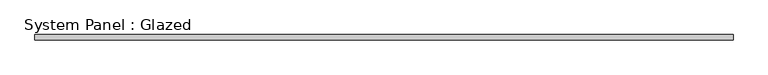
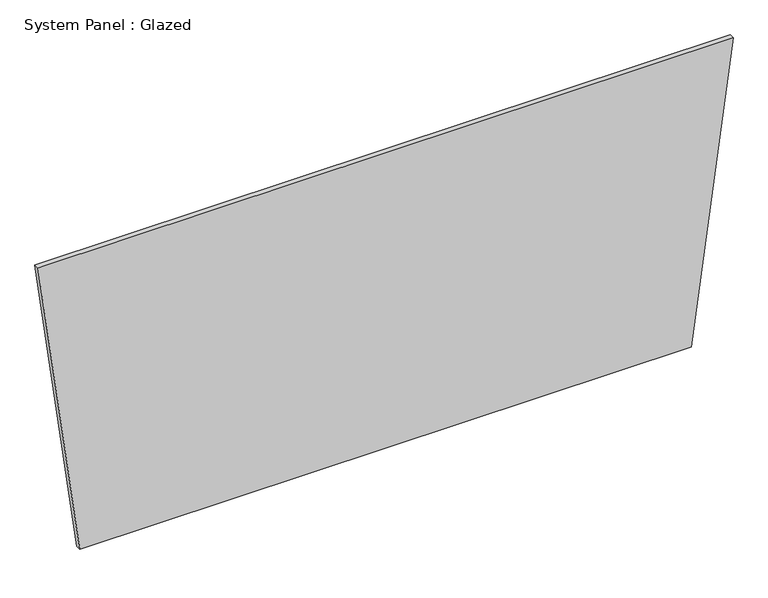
"""IFC4 building model written with IfcOpenShell, lengths in millimetres: plate geometry, System Panel : Glazed."""

import ifcopenshell
import ifcopenshell.guid

model = None  # the IFC model being written
_history = None  # IfcOwnerHistory: only IFC2X3 demands one
_inside = {}  # id of a spatial element -> (the spatial element, [elements in it])
_under = {}  # id of a project, library or spatial element -> (it, [spatial elements below it])
_declared = {}  # id of a project -> (the project, [libraries it declares])
_typed = {}  # id of a type object -> (the type object, [elements of that type])
_made_of = {}  # id of a material, layer set ... -> (it, [elements and type objects made of it])


def new_model(schema):
    """Start an empty IFC model of exactly this schema.

    Asked for "IFC4X3", IfcOpenShell would pick the latest addendum, in which some entities
    have other attributes; the version numbers below select the first issue.
    IFC2X3 requires an IfcOwnerHistory on every rooted entity: one is made here for all.
    """
    global model, _history
    if schema == "IFC4X3":
        model = ifcopenshell.file(schema_version=(4, 3, 0, 0))
    else:
        model = ifcopenshell.file(schema=schema)
    _inside.clear()
    _under.clear()
    _declared.clear()
    _typed.clear()
    _made_of.clear()
    _history = None
    if model.schema == "IFC2X3":
        org = make("IfcOrganization", Name="unknown")
        user = make(
            "IfcPersonAndOrganization",
            ThePerson=make("IfcPerson", FamilyName="unknown"),
            TheOrganization=org,
        )
        app = make(
            "IfcApplication",
            ApplicationDeveloper=org,
            Version="unknown",
            ApplicationFullName="unknown",
            ApplicationIdentifier="unknown",
        )
        _history = make(
            "IfcOwnerHistory",
            OwningUser=user,
            OwningApplication=app,
            ChangeAction="ADDED",
            CreationDate=0,
        )
    return model


def make(cls, **values):
    """One entity of the class cls with the attributes given. An attribute that is None is left unset."""
    return model.create_entity(
        cls, **{name: value for name, value in values.items() if value is not None}
    )


def rooted(cls, **values):
    """An entity with a GlobalId (a new one), such as an element, a storey or a relation."""
    return make(cls, GlobalId=ifcopenshell.guid.new(), OwnerHistory=_history, **values)


def si_unit(unit_type, name, prefix=None):
    """IfcSIUnit, for example si_unit("LENGTHUNIT", "METRE", prefix="MILLI")."""
    return make("IfcSIUnit", UnitType=unit_type, Prefix=prefix, Name=name)


def assignment(units):
    """IfcUnitAssignment: the units of a project."""
    return None if units is None else make("IfcUnitAssignment", Units=units)


def point(xyz):
    """IfcCartesianPoint."""
    return None if xyz is None else make("IfcCartesianPoint", Coordinates=xyz)


def direction(xyz):
    """IfcDirection."""
    return None if xyz is None else make("IfcDirection", DirectionRatios=xyz)


def frame(location, z_axis=None, x_axis=None):
    """IfcAxis2Placement3D, a coordinate frame: its origin and axes. An axis left out is left unset."""
    return make(
        "IfcAxis2Placement3D",
        Location=point(location),
        Axis=direction(z_axis),
        RefDirection=direction(x_axis),
    )


def origin():
    """The frame at (0, 0, 0) with its axes left unset."""
    return frame((0.0, 0.0, 0.0))


def place(relative_to, where):
    """IfcLocalPlacement: puts the frame where relative to a parent placement (None: the world)."""
    return make(
        "IfcLocalPlacement", PlacementRelTo=relative_to, RelativePlacement=where
    )


def context(
    kind, dimensions, precision=None, world=None, true_north=None, identifier=None
):
    """IfcGeometricRepresentationContext, for example the 3D "Model" context."""
    return make(
        "IfcGeometricRepresentationContext",
        ContextIdentifier=identifier,
        ContextType=kind,
        CoordinateSpaceDimension=dimensions,
        Precision=precision,
        WorldCoordinateSystem=world,
        TrueNorth=true_north,
    )


def project(units=None, contexts=None):
    """IfcProject with its units and contexts."""
    return rooted(
        "IfcProject",
        Name="project",
        RepresentationContexts=contexts,
        UnitsInContext=assignment(units),
    )


def spatial(cls, under=None, at=None, **own):
    """A site, building, storey or space (cls), placed at a placement, below another one or the project."""
    s = rooted(cls, ObjectPlacement=at, **own)
    if under is not None:
        _under.setdefault(under.id(), (under, []))[1].append(s)
    return s


def polyline(points):
    """IfcPolyline through the points."""
    return make("IfcPolyline", Points=[point(p) for p in points])


def outline(outer, holes=None, kind="AREA"):
    """IfcArbitraryClosedProfileDef: a profile drawn as a closed curve; with holes, ...WithVoids."""
    if holes is None:
        return make("IfcArbitraryClosedProfileDef", ProfileType=kind, OuterCurve=outer)
    return make(
        "IfcArbitraryProfileDefWithVoids",
        ProfileType=kind,
        OuterCurve=outer,
        InnerCurves=holes,
    )


def extrude(swept, where, along, depth):
    """IfcExtrudedAreaSolid: the profile swept, set in the frame where, extruded along a direction by depth."""
    return make(
        "IfcExtrudedAreaSolid",
        SweptArea=swept,
        Position=where,
        ExtrudedDirection=direction(along),
        Depth=depth,
    )


def shape(context_of_items, identifier, shape_type, items):
    """IfcShapeRepresentation: the items that make up one representation, for example the "Body"."""
    return make(
        "IfcShapeRepresentation",
        ContextOfItems=context_of_items,
        RepresentationIdentifier=identifier,
        RepresentationType=shape_type,
        Items=items,
    )


def source(mapping_origin, context_of_items, identifier, shape_type, items):
    """IfcRepresentationMap: a shape defined once, which mapped items show again and again."""
    return make(
        "IfcRepresentationMap",
        MappingOrigin=mapping_origin,
        MappedRepresentation=shape(context_of_items, identifier, shape_type, items),
    )


def transform(
    local_origin,
    x_axis=None,
    y_axis=None,
    z_axis=None,
    scale=None,
    scale2=None,
    scale3=None,
    uniform=True,
):
    """IfcCartesianTransformationOperator3D, or its non-uniform kind. x_axis, y_axis, z_axis: its Axis1, 2, 3."""
    if uniform:
        return make(
            "IfcCartesianTransformationOperator3D",
            Axis1=direction(x_axis),
            Axis2=direction(y_axis),
            LocalOrigin=point(local_origin),
            Scale=scale,
            Axis3=direction(z_axis),
        )
    return make(
        "IfcCartesianTransformationOperator3DnonUniform",
        Axis1=direction(x_axis),
        Axis2=direction(y_axis),
        LocalOrigin=point(local_origin),
        Scale=scale,
        Axis3=direction(z_axis),
        Scale2=scale2,
        Scale3=scale3,
    )


def mapped(mapping_source, mapping_target):
    """IfcMappedItem: shows the shape of a source again, moved by a transform."""
    return make(
        "IfcMappedItem", MappingSource=mapping_source, MappingTarget=mapping_target
    )


def made_of(thing, what):
    """Note that an element or type object is made of a material, layer set ...; save() writes the relation."""
    if what is not None:
        _made_of.setdefault(what.id(), (what, []))[1].append(thing)
    return thing


def element(
    cls,
    number,
    at=None,
    inside=None,
    cuts=None,
    type_object=None,
    material=None,
    context=None,
    identifier="Body",
    shape_type=None,
    held_by="IfcProductDefinitionShape",
    body=None,
    shapes=None,
    **own,
):
    """One element of the class cls, such as IfcWall. Its Tag is "e" and its number.

    at: its placement. inside: the storey or other place that contains it. cuts: it is an
    opening in that element (IfcRelVoidsElement). A single representation is given by context,
    identifier, shape_type and body (its items); several are given by shapes. held_by: the class
    of the entity that holds the representations. save() writes the other relations.
    """
    e = rooted(cls, Tag="e%d" % number, ObjectPlacement=at, **own)
    if body is not None:
        shapes = [shape(context, identifier, shape_type, body)]
    if shapes is not None:
        e.Representation = make(held_by, Representations=shapes)
    if inside is not None:
        _inside.setdefault(inside.id(), (inside, []))[1].append(e)
    if cuts is not None:
        rooted(
            "IfcRelVoidsElement", RelatingBuildingElement=cuts, RelatedOpeningElement=e
        )
    if type_object is not None:
        _typed.setdefault(type_object.id(), (type_object, []))[1].append(e)
    return made_of(e, material)


def aggregate(whole, parts):
    """IfcRelAggregates: a whole, such as a stair, and the parts it consists of."""
    return rooted("IfcRelAggregates", RelatingObject=whole, RelatedObjects=parts)


def save(model, path):
    """Write the relations noted so far, then the file.

    IfcRelAggregates (storeys below a building ...), IfcRelContainedInSpatialStructure (elements
    in a storey), IfcRelDefinesByType, IfcRelAssociatesMaterial and IfcRelDeclares: one each for
    every whole, place, type object, material and project.
    """
    for whole, parts in _under.values():
        aggregate(whole, parts)
    for where, things in _inside.values():
        rooted(
            "IfcRelContainedInSpatialStructure",
            RelatedElements=things,
            RelatingStructure=where,
        )
    for kind, things in _typed.values():
        rooted("IfcRelDefinesByType", RelatedObjects=things, RelatingType=kind)
    for what, things in _made_of.values():
        rooted("IfcRelAssociatesMaterial", RelatedObjects=things, RelatingMaterial=what)
    for by, libraries in _declared.values():
        rooted("IfcRelDeclares", RelatingContext=by, RelatedDefinitions=libraries)
    model.write(path)


def system_panel_glazed_56061e2f(model_context):
    return source(origin(), model_context, "Body", "SweptSolid", [
        extrude(outline(polyline([(0.0, -1479.0225147), (0.0, 1479.0225147), (1510.5644321, 1680.9410542), (1510.5644321, -1680.9410542), (0.0, -1479.0225147)])), frame((0.0, 19.05, 0.0), z_axis=(0.0, 1.0, 0.0), x_axis=(0.0, 0.0, 1.0)), (0.0, 0.0, 1.0), 25.4),
    ])


if __name__ == "__main__":
    model = new_model("IFC4")
    model_context = context("Model", 3, world=origin())
    ifc_project = project(units=[si_unit("LENGTHUNIT", "METRE", prefix="MILLI")], contexts=[model_context])
    site = spatial("IfcSite", under=ifc_project)
    building = spatial("IfcBuilding", under=site)
    placement = place(None, origin())
    system_panel_glazed_shape = system_panel_glazed_56061e2f(model_context)
    element("IfcPlate", 1, ObjectType="System Panel : Glazed", at=placement, inside=building, context=model_context, shape_type="MappedRepresentation", body=[
        mapped(system_panel_glazed_shape, transform((0.0, 0.0, 0.0), x_axis=(1.0, 0.0, 0.0), y_axis=(0.0, 1.0, 0.0), z_axis=(0.0, 0.0, 1.0))),
    ])
    save(model, "model.ifc")
